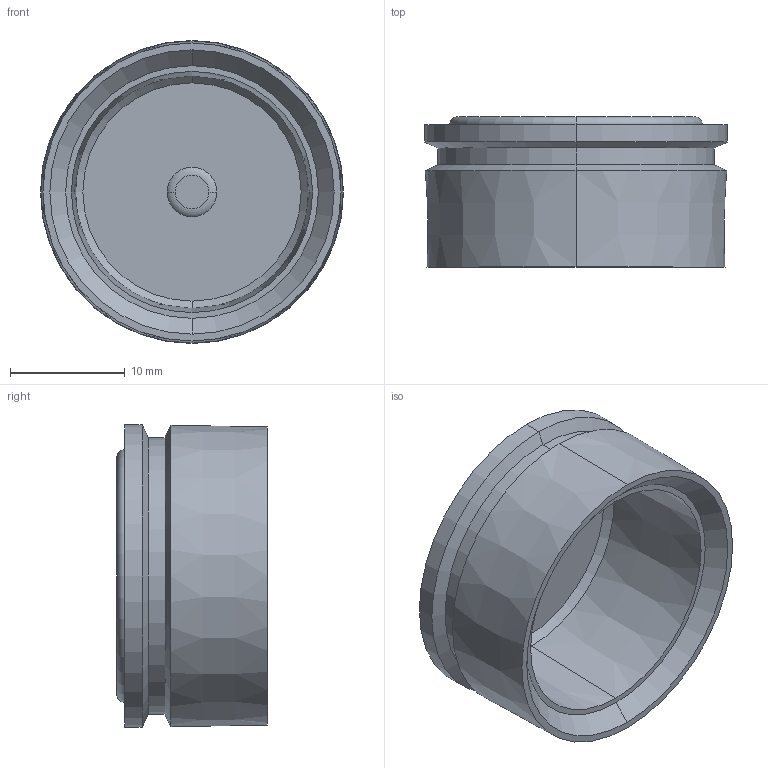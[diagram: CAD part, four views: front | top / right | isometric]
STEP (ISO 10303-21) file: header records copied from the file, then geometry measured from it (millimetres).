
FILE_DESCRIPTION (( 'STEP AP203' ), '1' );
FILE_NAME ('plc-pg-25-00.00.004 Óïëîòíèòåëü (PG25) #sealant (PG25)#.STEP', '2024-07-23T11:41:35', ( '' ), ( '' ), 'SwSTEP 2.0', 'SolidWorks 2021', '' );
FILE_SCHEMA (( 'CONFIG_CONTROL_DESIGN' ));
Length unit declared in the file: millimetre
Products named in the file (1): plc-pg-25-00.00.004 Óïëîòíèòåëü (PG25) #sealant (PG25)#
Bounding box: 26.39 x 13.1 x 26.39 mm (x, y, z)
Volume: 2494.3 mm3; surface area: 2930.4 mm2
Topology: 1 solids, 1 shells, 29 faces, 56 edges, 34 vertices
Faces by surface type: cone 14, plane 7, torus 6, cylinder 2
Entity records: 827 total; most frequent: DIRECTION 156, CARTESIAN_POINT 120, ORIENTED_EDGE 112, AXIS2_PLACEMENT_3D 70, EDGE_CURVE 56, CIRCLE 40, EDGE_LOOP 34, VERTEX_POINT 34
